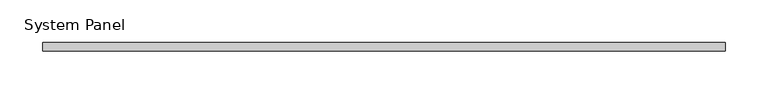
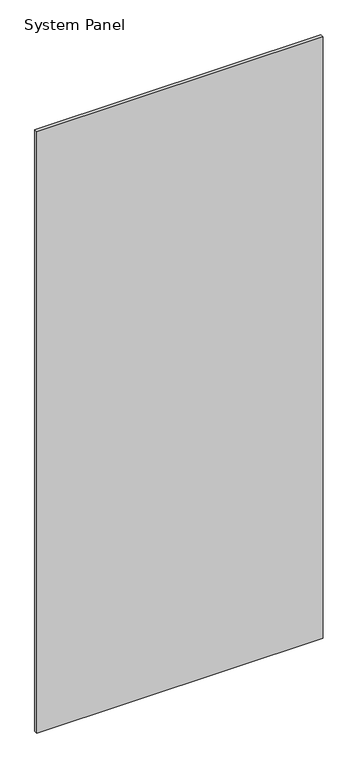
"""IFC4 building model written with IfcOpenShell, lengths in millimetres: plate geometry, System Panel : стекло_смещение_0."""

from ifc_helpers import new_model, si_unit, origin, origin_with_axes, place, context, project, spatial, polyline, outline, extrude, source, transform, mapped, element, save


def system_panel_0c46a733(model_context):
    return source(origin(), model_context, "Body", "SweptSolid", [
        extrude(outline(polyline([(400.0, -5.0), (-400.0, -5.0), (-400.0, 5.0), (400.0, 5.0), (400.0, -5.0)])), origin_with_axes(), (0.0, 0.0, 1.0), 1775.0),
    ])


if __name__ == "__main__":
    model = new_model("IFC4")
    model_context = context("Model", 3, world=origin())
    ifc_project = project(units=[si_unit("LENGTHUNIT", "METRE", prefix="MILLI")], contexts=[model_context])
    site = spatial("IfcSite", under=ifc_project)
    building = spatial("IfcBuilding", under=site)
    placement = place(None, origin())
    system_panel_shape = system_panel_0c46a733(model_context)
    element("IfcPlate", 1, ObjectType="System Panel : стекло_смещение_0", at=placement, inside=building, context=model_context, shape_type="MappedRepresentation", body=[
        mapped(system_panel_shape, transform((0.0, 0.0, 0.0), x_axis=(1.0, 0.0, 0.0), y_axis=(0.0, 1.0, 0.0), z_axis=(0.0, 0.0, 1.0))),
    ])
    save(model, "model.ifc")
